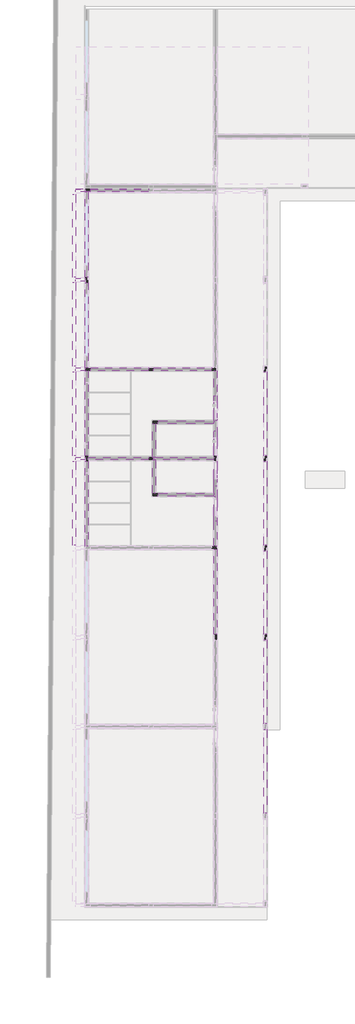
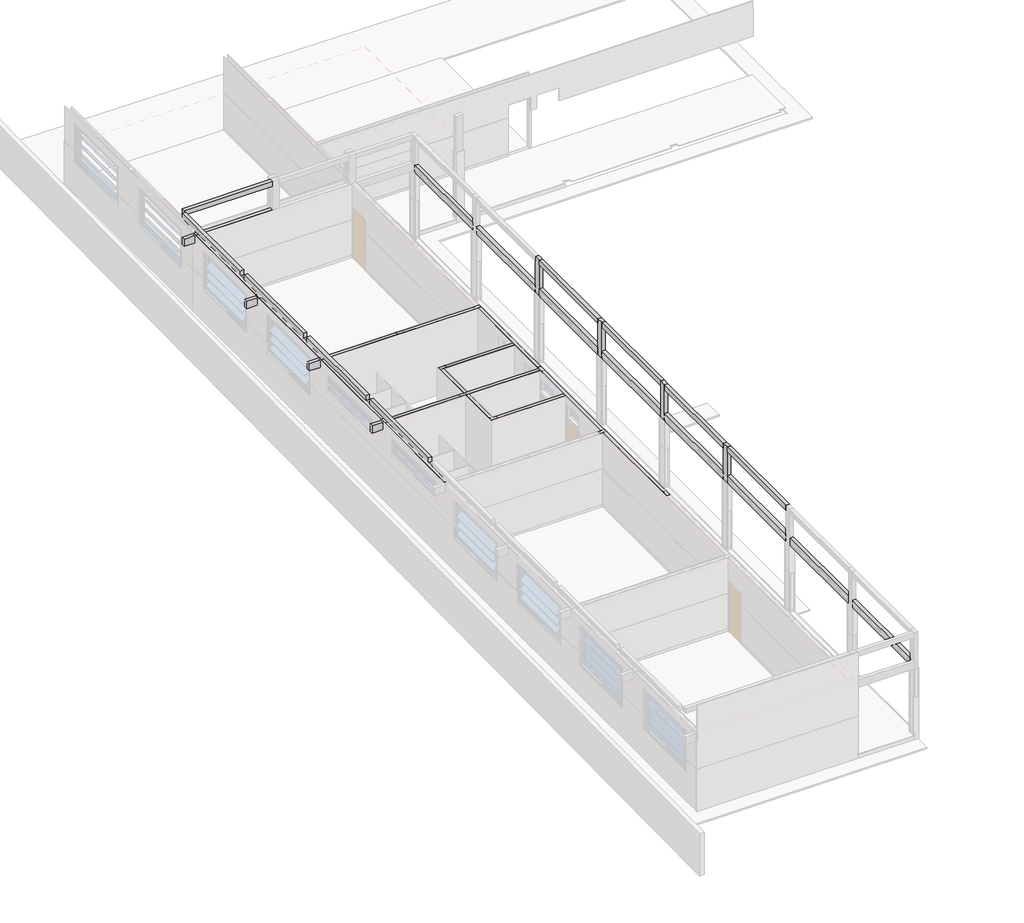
# One storey, part 9 of 11: 57 beams, 16 columns.
"""IFC4 building model written with IfcOpenShell, lengths in millimetres."""

from ifc_helpers import new_model, si_unit, frame, origin, place, context, project, spatial, polyline, outline, extrude, faceted_brep, transform, mapped, element, save
from components import beam_10x14x120_9fcbaa63

model = new_model("IFC4")

# Units and contexts
model_context = context("Model", 3, world=origin())
ifc_project = project(units=[si_unit("LENGTHUNIT", "METRE", prefix="MILLI")], contexts=[model_context])

# Site, building, storey
site = spatial("IfcSite", under=ifc_project)
building = spatial("IfcBuilding", under=site)
storey = spatial("IfcBuildingStorey", under=building, Name="NÍVEL 1", Elevation=43.4413576)

# Beams
placement = place(None, origin())
beam_10x14x120_shape = beam_10x14x120_9fcbaa63(model_context)
element("IfcBeam", 1, ObjectType="Verga-vedacao : 10x14x120", at=placement, inside=storey, context=model_context, shape_type="MappedRepresentation", body=[
    mapped(beam_10x14x120_shape, transform((9272.3574069, -7447.9280358, 2208.4413576), x_axis=(0.0, 1.0, 0.0), y_axis=(0.0, 0.0, 1.0), z_axis=(1.0, 0.0, 0.0))),
])
element("IfcBeam", 2, ObjectType="Verga-vedacao : 10x14x120", at=placement, inside=storey, context=model_context, shape_type="MappedRepresentation", body=[
    mapped(beam_10x14x120_shape, transform((9272.3574069, -5757.9280358, 2208.4413576), x_axis=(0.0, 1.0, 0.0), y_axis=(0.0, 0.0, 1.0), z_axis=(1.0, 0.0, 0.0))),
])
element("IfcBeam", 3, ObjectType="Verga-vedacao : 10x14x120", at=placement, inside=storey, context=model_context, shape_type="MappedRepresentation", body=[
    mapped(beam_10x14x120_shape, transform((9272.3574069, -4297.9280358, 2208.4413576), x_axis=(0.0, 1.0, 0.0), y_axis=(0.0, 0.0, 1.0), z_axis=(1.0, 0.0, 0.0))),
])
element("IfcBeam", 4, ObjectType="Verga-vedacao : 10x14x120", at=placement, inside=storey, context=model_context, shape_type="MappedRepresentation", body=[
    mapped(beam_10x14x120_shape, transform((9272.3574069, -2607.9280358, 2208.4413576), x_axis=(0.0, 1.0, 0.0), y_axis=(0.0, 0.0, 1.0), z_axis=(1.0, 0.0, 0.0))),
])
element("IfcBeam", 5, ObjectType="Viga Retangular de Concreto : VIGA BALDRAME 14X30-25MPA-CA50", at=placement, inside=storey, context=model_context, shape_type="SweptSolid", body=[
    extrude(outline(polyline([(5972.3574069, 7942.0719642), (5972.3574069, 7802.0719642), (3192.3574069, 7802.0719642), (3192.3574069, 7942.0719642), (5972.3574069, 7942.0719642)])), frame((0.0, 0.0, -256.5586424), z_axis=(0.0, 0.0, 1.0), x_axis=(1.0, 0.0, 0.0)), (0.0, 0.0, 1.0), 300.0),
])
element("IfcBeam", 6, ObjectType="Viga Retangular de Concreto : VIGA BALDRAME 14X30-25MPA-CA50", at=placement, inside=storey, context=model_context, shape_type="SweptSolid", body=[
    extrude(outline(polyline([(3072.3574069, 3702.0719642), (2932.3574069, 3702.0719642), (2932.3574069, 7802.0719642), (3072.3574069, 7802.0719642), (3072.3574069, 3702.0719642)])), frame((0.0, 0.0, -256.5586424), z_axis=(0.0, 0.0, 1.0), x_axis=(1.0, 0.0, 0.0)), (0.0, 0.0, 1.0), 300.0),
])
element("IfcBeam", 7, ObjectType="Viga Retangular de Concreto : VIGA BALDRAME 14X30-25MPA-CA50", at=placement, inside=storey, context=model_context, shape_type="SweptSolid", body=[
    extrude(outline(polyline([(3072.3574069, -657.9280358), (2932.3574069, -657.9280358), (2932.3574069, 3442.0719642), (3072.3574069, 3442.0719642), (3072.3574069, -657.9280358)])), frame((0.0, 0.0, -256.5586424), z_axis=(0.0, 0.0, 1.0), x_axis=(1.0, 0.0, 0.0)), (0.0, 0.0, 1.0), 300.0),
])
element("IfcBeam", 8, ObjectType="Viga Retangular de Concreto : VIGA BALDRAME 14X30-25MPA-CA50", at=placement, inside=storey, context=model_context, shape_type="SweptSolid", body=[
    extrude(outline(polyline([(3072.3574069, -4897.9280358), (2932.3574069, -4897.9280358), (2932.3574069, -797.9280358), (3072.3574069, -797.9280358), (3072.3574069, -4897.9280358)])), frame((0.0, 0.0, -256.5586424), z_axis=(0.0, 0.0, 1.0), x_axis=(1.0, 0.0, 0.0)), (0.0, 0.0, 1.0), 300.0),
])
element("IfcBeam", 9, ObjectType="Viga Retangular de Concreto : VIGA BALDRAME 14X30-25MPA-CA50", at=placement, inside=storey, context=model_context, shape_type="SweptSolid", body=[
    extrude(outline(polyline([(3072.3574069, -9257.9280358), (2932.3574069, -9257.9280358), (2932.3574069, -5157.9280358), (3072.3574069, -5157.9280358), (3072.3574069, -9257.9280358)])), frame((0.0, 0.0, -256.5586424), z_axis=(0.0, 0.0, 1.0), x_axis=(1.0, 0.0, 0.0)), (0.0, 0.0, 1.0), 300.0),
])
element("IfcBeam", 10, ObjectType="Viga Retangular de Concreto : VIGA BALDRAME 14X30-25MPA-CA50", at=placement, inside=storey, context=model_context, shape_type="SweptSolid", body=[
    extrude(outline(polyline([(11532.3574069, -9457.9280358), (11672.3574069, -9457.9280358), (11672.3574069, -13497.9280358), (11532.3574069, -13497.9280358), (11532.3574069, -9457.9280358)])), frame((0.0, 0.0, -276.5586424), z_axis=(0.0, 0.0, 1.0), x_axis=(1.0, 0.0, 0.0)), (0.0, 0.0, 1.0), 300.0),
])
element("IfcBeam", 11, ObjectType="Viga Retangular de Concreto : VIGA BALDRAME 14X30-25MPA-CA50", at=placement, inside=storey, context=model_context, shape_type="SweptSolid", body=[
    extrude(outline(polyline([(11532.3574069, -5157.9280358), (11672.3574069, -5157.9280358), (11672.3574069, -9197.9280358), (11532.3574069, -9197.9280358), (11532.3574069, -5157.9280358)])), frame((0.0, 0.0, -276.5586424), z_axis=(0.0, 0.0, 1.0), x_axis=(1.0, 0.0, 0.0)), (0.0, 0.0, 1.0), 300.0),
])
element("IfcBeam", 12, ObjectType="Viga Retangular de Concreto : VIGA BALDRAME 14X30-25MPA-CA50", at=placement, inside=storey, context=model_context, shape_type="SweptSolid", body=[
    extrude(outline(polyline([(11532.3574069, -857.9280358), (11672.3574069, -857.9280358), (11672.3574069, -4897.9280358), (11532.3574069, -4897.9280358), (11532.3574069, -857.9280358)])), frame((0.0, 0.0, -276.5586424), z_axis=(0.0, 0.0, 1.0), x_axis=(1.0, 0.0, 0.0)), (0.0, 0.0, 1.0), 300.0),
])
element("IfcBeam", 13, ObjectType="Viga Retangular de Concreto : VIGA BALDRAME 14X30-25MPA-CA50", at=placement, inside=storey, context=model_context, shape_type="SweptSolid", body=[
    extrude(outline(polyline([(5972.3574069, -657.9280358), (5972.3574069, -797.9280358), (3192.3574069, -797.9280358), (3192.3574069, -657.9280358), (5972.3574069, -657.9280358)])), frame((0.0, 0.0, -256.5586424), z_axis=(0.0, 0.0, 1.0), x_axis=(1.0, 0.0, 0.0)), (0.0, 0.0, 1.0), 300.0),
])
element("IfcBeam", 14, ObjectType="Viga Retangular de Concreto : VIGA BALDRAME 14X30-25MPA-CA50", at=placement, inside=storey, context=model_context, shape_type="SweptSolid", body=[
    extrude(outline(polyline([(9012.3574069, -657.9280358), (9012.3574069, -797.9280358), (6232.3574069, -797.9280358), (6232.3574069, -657.9280358), (9012.3574069, -657.9280358)])), frame((0.0, 0.0, -256.5586424), z_axis=(0.0, 0.0, 1.0), x_axis=(1.0, 0.0, 0.0)), (0.0, 0.0, 1.0), 300.0),
])
element("IfcBeam", 15, ObjectType="Viga Retangular de Concreto : VIGA BALDRAME 14X30-25MPA-CA50", at=placement, inside=storey, context=model_context, shape_type="Brep", body=[
    faceted_brep([(9132.3574069, -4897.9280358, 43.4413576), (9272.3574069, -4897.9280358, 43.4413576), (9272.3574069, -797.9280358, 43.4413576), (9132.3574069, -797.9280358, 43.4413576), (9132.3574069, -3207.9280358, 43.4413576), (9132.3574069, -3347.9280358, 43.4413576), (9132.3574069, -4897.9280358, -256.5586424), (9132.3574069, -797.9280358, -256.5586424), (9132.3574069, -3207.9280358, -256.5586424), (9132.3574069, -3347.9280358, -256.5586424), (9272.3574069, -4897.9280358, -256.5586424), (9272.3574069, -797.9280358, -256.5586424)], [[[0, 1, 2, 3, 4, 5]], [[6, 0, 5, 4, 3, 7, 8, 9]], [[10, 6, 9, 8, 7, 11]], [[1, 10, 11, 2]], [[2, 11, 7, 3]], [[1, 0, 6, 10]]]),
])
element("IfcBeam", 16, ObjectType="Viga Retangular de Concreto : VIGA BALDRAME 14X30-25MPA-CA50", at=placement, inside=storey, context=model_context, shape_type="Brep", body=[
    faceted_brep([(9132.3574069, -9257.9280358, 43.4413576), (9272.3574069, -9257.9280358, 43.4413576), (9272.3574069, -5157.9280358, 43.4413576), (9132.3574069, -5157.9280358, 43.4413576), (9132.3574069, -6707.9280358, 43.4413576), (9132.3574069, -6847.9280358, 43.4413576), (9132.3574069, -9257.9280358, -256.5586424), (9132.3574069, -5157.9280358, -256.5586424), (9132.3574069, -6707.9280358, -256.5586424), (9132.3574069, -6847.9280358, -256.5586424), (9272.3574069, -9257.9280358, -256.5586424), (9272.3574069, -5157.9280358, -256.5586424)], [[[0, 1, 2, 3, 4, 5]], [[6, 0, 5, 4, 3, 7, 8, 9]], [[10, 6, 9, 8, 7, 11]], [[1, 10, 11, 2]], [[1, 0, 6, 10]], [[2, 11, 7, 3]]]),
])
element("IfcBeam", 17, ObjectType="Viga Retangular de Concreto : VIGA BALDRAME 14X30-25MPA-CA50", at=placement, inside=storey, context=model_context, shape_type="SweptSolid", body=[
    extrude(outline(polyline([(9272.3574069, -13497.9280358), (9132.3574069, -13497.9280358), (9132.3574069, -9397.9280358), (9272.3574069, -9397.9280358), (9272.3574069, -13497.9280358)])), frame((0.0, 0.0, -256.5586424), z_axis=(0.0, 0.0, 1.0), x_axis=(1.0, 0.0, 0.0)), (0.0, 0.0, 1.0), 300.0),
])
element("IfcBeam", 18, ObjectType="Viga Retangular de Concreto : VIGA BALDRAME 14X30-25MPA-CA50", at=placement, inside=storey, context=model_context, shape_type="SweptSolid", body=[
    extrude(outline(polyline([(5972.3574069, -4957.9280358), (5972.3574069, -5097.9280358), (3072.3574069, -5097.9280358), (3072.3574069, -4957.9280358), (5972.3574069, -4957.9280358)])), frame((0.0, 0.0, -256.5586424), z_axis=(0.0, 0.0, 1.0), x_axis=(1.0, 0.0, 0.0)), (0.0, 0.0, 1.0), 300.0),
])
element("IfcBeam", 19, ObjectType="Viga Retangular de Concreto : VIGA BALDRAME 14X30-25MPA-CA50", at=placement, inside=storey, context=model_context, shape_type="Brep", body=[
    faceted_brep([(6232.3574069, -5097.9280358, 43.4413576), (6322.3574069, -5097.9280358, 43.4413576), (9132.3574069, -5097.9280358, 43.4413576), (9132.3574069, -4957.9280358, 43.4413576), (6322.3574069, -4957.9280358, 43.4413576), (6322.3574069, -4960.0953811, 43.4413576), (6232.3574069, -4960.0953811, 43.4413576), (6232.3574069, -5097.9280358, -256.5586424), (6322.3574069, -5097.9280358, -256.5586424), (9132.3574069, -5097.9280358, -256.5586424), (6232.3574069, -4960.0953811, -256.5586424), (6322.3574069, -4960.0953811, -256.5586424), (6322.3574069, -4957.9280358, -256.5586424), (9132.3574069, -4957.9280358, -256.5586424)], [[[0, 1, 2, 3, 4, 5, 6]], [[2, 1, 0, 7, 8, 9]], [[9, 8, 7, 10, 11, 12, 13]], [[3, 13, 12, 4]], [[7, 0, 6, 10]], [[3, 2, 9, 13]], [[11, 5, 4, 12]], [[5, 11, 10, 6]]]),
])
element("IfcBeam", 20, ObjectType="Viga Retangular de Concreto : VIGA BALDRAME 14X30-25MPA-CA50", at=placement, inside=storey, context=model_context, shape_type="SweptSolid", body=[
    extrude(outline(polyline([(6442.3574069, -3347.9280358), (6442.3574069, -3207.9280358), (9132.3574069, -3207.9280358), (9132.3574069, -3347.9280358), (6442.3574069, -3347.9280358)])), frame((0.0, 0.0, -256.5586424), z_axis=(0.0, 0.0, 1.0), x_axis=(1.0, 0.0, 0.0)), (0.0, 0.0, 1.0), 300.0),
])
element("IfcBeam", 21, ObjectType="Viga Retangular de Concreto : VIGA BALDRAME 14X30-25MPA-CA50", at=placement, inside=storey, context=model_context, shape_type="SweptSolid", body=[
    extrude(outline(polyline([(6442.3574069, -6847.9280358), (6442.3574069, -6707.9280358), (9132.3574069, -6707.9280358), (9132.3574069, -6847.9280358), (6442.3574069, -6847.9280358)])), frame((0.0, 0.0, -256.5586424), z_axis=(0.0, 0.0, 1.0), x_axis=(1.0, 0.0, 0.0)), (0.0, 0.0, 1.0), 300.0),
])
element("IfcBeam", 22, ObjectType="Viga Retangular de Concreto : VIGA BALDRAME 14X30-25MPA-CA50", at=placement, inside=storey, context=model_context, shape_type="Brep", body=[
    faceted_brep([(6322.3574069, -4960.0953811, 43.4413576), (6322.3574069, -4957.9280358, 43.4413576), (6322.3574069, -3347.9201223, 43.4413576), (6182.3574069, -3347.9201223, 43.4413576), (6182.3574069, -4957.9280358, 43.4413576), (6232.3574069, -4957.9280358, 43.4413576), (6232.3574069, -4960.0953811, 43.4413576), (6182.3574069, -3347.9201223, -256.5586424), (6182.3574069, -4957.9280358, -256.5586424), (6322.3574069, -3347.9201223, -256.5586424), (6322.3574069, -4957.9280358, -256.5586424), (6322.3574069, -4960.0953811, -256.5586424), (6232.3574069, -4960.0953811, -256.5586424), (6232.3574069, -4957.9280358, -256.5586424)], [[[0, 1, 2, 3, 4, 5, 6]], [[3, 7, 8, 4]], [[9, 10, 11, 12, 13, 8, 7]], [[2, 1, 0, 11, 10, 9]], [[11, 0, 6, 12]], [[5, 13, 12, 6]], [[13, 5, 4, 8]], [[2, 9, 7, 3]]]),
])
element("IfcBeam", 23, ObjectType="Viga Retangular de Concreto : VIGA BALDRAME 14X30-25MPA-CA50", at=placement, inside=storey, context=model_context, shape_type="Brep", body=[
    faceted_brep([(6322.3574069, -5097.8671346, 43.4413576), (6232.3574069, -5097.8671346, 43.4413576), (6182.3574069, -5097.8671346, 43.4413576), (6182.3574069, -6707.8671346, 43.4413576), (6322.3574069, -6707.8671346, 43.4413576), (6322.3574069, -5097.8671346, -256.5586424), (6322.3574069, -6707.8671346, -256.5586424), (6182.3574069, -5097.8671346, -256.5586424), (6232.3574069, -5097.8671346, -256.5586424), (6182.3574069, -6707.8671346, -256.5586424)], [[[0, 1, 2, 3, 4]], [[5, 0, 4, 6]], [[7, 8, 5, 6, 9]], [[2, 7, 9, 3]], [[2, 1, 0, 5, 8, 7]], [[3, 9, 6, 4]]]),
])
element("IfcBeam", 24, ObjectType="Viga Retangular de Concreto : VIGA ESTRUTURAL 14X20-25MPA-CA50", at=placement, inside=storey, context=model_context, shape_type="SweptSolid", body=[
    extrude(outline(polyline([(2472.3574069, 3702.0719642), (2332.3574069, 3702.0719642), (2332.3574069, 7682.0719642), (2472.3574069, 7682.0719642), (2472.3574069, 3702.0719642)])), frame((0.0, 0.0, 4143.4413576), z_axis=(0.0, 0.0, 1.0), x_axis=(1.0, 0.0, 0.0)), (0.0, 0.0, 1.0), 200.0),
])
element("IfcBeam", 25, ObjectType="Viga Retangular de Concreto : VIGA ESTRUTURAL 14X20-25MPA-CA50", at=placement, inside=storey, context=model_context, shape_type="SweptSolid", body=[
    extrude(outline(polyline([(2472.3574069, -597.9280358), (2332.3574069, -597.9280358), (2332.3574069, 3442.0719642), (2472.3574069, 3442.0719642), (2472.3574069, -597.9280358)])), frame((0.0, 0.0, 4143.4413576), z_axis=(0.0, 0.0, 1.0), x_axis=(1.0, 0.0, 0.0)), (0.0, 0.0, 1.0), 200.0),
])
element("IfcBeam", 26, ObjectType="Viga Retangular de Concreto : VIGA ESTRUTURAL 14X20-25MPA-CA50", at=placement, inside=storey, context=model_context, shape_type="SweptSolid", body=[
    extrude(outline(polyline([(2472.3574069, -4897.9280358), (2332.3574069, -4897.9280358), (2332.3574069, -857.9280358), (2472.3574069, -857.9280358), (2472.3574069, -4897.9280358)])), frame((0.0, 0.0, 4143.4413576), z_axis=(0.0, 0.0, 1.0), x_axis=(1.0, 0.0, 0.0)), (0.0, 0.0, 1.0), 200.0),
])
element("IfcBeam", 27, ObjectType="Viga Retangular de Concreto : VIGA ESTRUTURAL 14X20-25MPA-CA50", at=placement, inside=storey, context=model_context, shape_type="SweptSolid", body=[
    extrude(outline(polyline([(2472.3574069, -9197.9280358), (2332.3574069, -9197.9280358), (2332.3574069, -5157.9280358), (2472.3574069, -5157.9280358), (2472.3574069, -9197.9280358)])), frame((0.0, 0.0, 4143.4413576), z_axis=(0.0, 0.0, 1.0), x_axis=(1.0, 0.0, 0.0)), (0.0, 0.0, 1.0), 200.0),
])
element("IfcBeam", 28, ObjectType="Viga Retangular de Concreto : VIGA ESTRUTURAL 14X20-25MPA-CA50", at=placement, inside=storey, context=model_context, shape_type="SweptSolid", body=[
    extrude(outline(polyline([(11532.3574069, -13757.9280358), (11672.3574069, -13757.9280358), (11672.3574069, -17797.9280358), (11532.3574069, -17797.9280358), (11532.3574069, -13757.9280358)])), frame((0.0, 0.0, 4143.4413576), z_axis=(0.0, 0.0, 1.0), x_axis=(1.0, 0.0, 0.0)), (0.0, 0.0, 1.0), 200.0),
])
element("IfcBeam", 29, ObjectType="Viga Retangular de Concreto : VIGA ESTRUTURAL 14X20-25MPA-CA50", at=placement, inside=storey, context=model_context, shape_type="SweptSolid", body=[
    extrude(outline(polyline([(11532.3574069, -9457.9280358), (11672.3574069, -9457.9280358), (11672.3574069, -13497.9280358), (11532.3574069, -13497.9280358), (11532.3574069, -9457.9280358)])), frame((0.0, 0.0, 4143.4413576), z_axis=(0.0, 0.0, 1.0), x_axis=(1.0, 0.0, 0.0)), (0.0, 0.0, 1.0), 200.0),
])
element("IfcBeam", 30, ObjectType="Viga Retangular de Concreto : VIGA ESTRUTURAL 14X20-25MPA-CA50", at=placement, inside=storey, context=model_context, shape_type="SweptSolid", body=[
    extrude(outline(polyline([(11532.3574069, -5157.9280358), (11672.3574069, -5157.9280358), (11672.3574069, -9197.9280358), (11532.3574069, -9197.9280358), (11532.3574069, -5157.9280358)])), frame((0.0, 0.0, 4143.4413576), z_axis=(0.0, 0.0, 1.0), x_axis=(1.0, 0.0, 0.0)), (0.0, 0.0, 1.0), 200.0),
])
element("IfcBeam", 31, ObjectType="Viga Retangular de Concreto : VIGA ESTRUTURAL 14X20-25MPA-CA50", at=placement, inside=storey, context=model_context, shape_type="SweptSolid", body=[
    extrude(outline(polyline([(11532.3574069, -857.9280358), (11672.3574069, -857.9280358), (11672.3574069, -4897.9280358), (11532.3574069, -4897.9280358), (11532.3574069, -857.9280358)])), frame((0.0, 0.0, 4143.4413576), z_axis=(0.0, 0.0, 1.0), x_axis=(1.0, 0.0, 0.0)), (0.0, 0.0, 1.0), 200.0),
])
element("IfcBeam", 32, ObjectType="Viga Retangular de Concreto : VIGA ESTRUTURAL 14X20-25MPA-CA50", at=placement, inside=storey, context=model_context, shape_type="SweptSolid", body=[
    extrude(outline(polyline([(2472.3574069, 7802.0719642), (2472.3574069, 7942.0719642), (5972.3574069, 7942.0719642), (5972.3574069, 7802.0719642), (2472.3574069, 7802.0719642)])), frame((0.0, 0.0, 4143.4413576), z_axis=(0.0, 0.0, 1.0), x_axis=(1.0, 0.0, 0.0)), (0.0, 0.0, 1.0), 200.0),
])
element("IfcBeam", 33, ObjectType="Viga Retangular de Concreto : VIGA ESTRUTURAL 14X20-25MPA-CA50", at=placement, inside=storey, context=model_context, shape_type="SweptSolid", body=[
    extrude(outline(polyline([(2932.3574069, 3442.0719642), (3072.3574069, 3442.0719642), (3072.3574069, -657.9280358), (2932.3574069, -657.9280358), (2932.3574069, 3442.0719642)])), frame((0.0, 0.0, 1003.4413576), z_axis=(0.0, 0.0, 1.0), x_axis=(1.0, 0.0, 0.0)), (0.0, 0.0, 1.0), 200.0),
])
element("IfcBeam", 34, ObjectType="Viga Retangular de Concreto : VIGA ESTRUTURAL 14X20-25MPA-CA50", at=placement, inside=storey, context=model_context, shape_type="SweptSolid", body=[
    extrude(outline(polyline([(2932.3574069, 7802.0719642), (3072.3574069, 7802.0719642), (3072.3574069, 3702.0719642), (2932.3574069, 3702.0719642), (2932.3574069, 7802.0719642)])), frame((0.0, 0.0, 1003.4413576), z_axis=(0.0, 0.0, 1.0), x_axis=(1.0, 0.0, 0.0)), (0.0, 0.0, 1.0), 200.0),
])
element("IfcBeam", 35, ObjectType="Viga Retangular de Concreto : VIGA ESTRUTURAL 14X20-25MPA-CA50", at=placement, inside=storey, context=model_context, shape_type="SweptSolid", body=[
    extrude(outline(polyline([(2932.3574069, -797.9280358), (3072.3574069, -797.9280358), (3072.3574069, -4897.9280358), (2932.3574069, -4897.9280358), (2932.3574069, -797.9280358)])), frame((0.0, 0.0, 2003.4413576), z_axis=(0.0, 0.0, 1.0), x_axis=(1.0, 0.0, 0.0)), (0.0, 0.0, 1.0), 200.0),
])
element("IfcBeam", 36, ObjectType="Viga Retangular de Concreto : VIGA ESTRUTURAL 14X20-25MPA-CA50", at=placement, inside=storey, context=model_context, shape_type="SweptSolid", body=[
    extrude(outline(polyline([(2932.3574069, -5157.9280358), (3072.3574069, -5157.9280358), (3072.3574069, -9257.9280358), (2932.3574069, -9257.9280358), (2932.3574069, -5157.9280358)])), frame((0.0, 0.0, 2003.4413576), z_axis=(0.0, 0.0, 1.0), x_axis=(1.0, 0.0, 0.0)), (0.0, 0.0, 1.0), 200.0),
])
element("IfcBeam", 37, ObjectType="Viga Retangular de Concreto : VIGA ESTRUTURAL 14X30-25MPA-CA50", at=placement, inside=storey, context=model_context, shape_type="SweptSolid", body=[
    extrude(outline(polyline([(11532.3574069, 7682.0719642), (11672.3574069, 7682.0719642), (11672.3574069, 3702.0719642), (11532.3574069, 3702.0719642), (11532.3574069, 7682.0719642)])), frame((0.0, 0.0, 2843.4413576), z_axis=(0.0, 0.0, 1.0), x_axis=(1.0, 0.0, 0.0)), (0.0, 0.0, 1.0), 300.0),
    extrude(outline(polyline([(11672.3574069, -26337.9280358), (11532.3574069, -26337.9280358), (11532.3574069, -22357.9280358), (11672.3574069, -22357.9280358), (11672.3574069, -26337.9280358)])), frame((0.0, 0.0, 2843.4413576), z_axis=(0.0, 0.0, 1.0), x_axis=(1.0, 0.0, 0.0)), (0.0, 0.0, 1.0), 300.0),
    extrude(outline(polyline([(11532.3574069, 3442.0719642), (11672.3574069, 3442.0719642), (11672.3574069, -597.9280358), (11532.3574069, -597.9280358), (11532.3574069, 3442.0719642)])), frame((0.0, 0.0, 2843.4413576), z_axis=(0.0, 0.0, 1.0), x_axis=(1.0, 0.0, 0.0)), (0.0, 0.0, 1.0), 300.0),
    extrude(outline(polyline([(11672.3574069, -4897.9280358), (11532.3574069, -4897.9280358), (11532.3574069, -857.9280358), (11672.3574069, -857.9280358), (11672.3574069, -4897.9280358)])), frame((0.0, 0.0, 2843.4413576), z_axis=(0.0, 0.0, 1.0), x_axis=(1.0, 0.0, 0.0)), (0.0, 0.0, 1.0), 300.0),
    extrude(outline(polyline([(11532.3574069, -5157.9280358), (11672.3574069, -5157.9280358), (11672.3574069, -9197.9280358), (11532.3574069, -9197.9280358), (11532.3574069, -5157.9280358)])), frame((0.0, 0.0, 2843.4413576), z_axis=(0.0, 0.0, 1.0), x_axis=(1.0, 0.0, 0.0)), (0.0, 0.0, 1.0), 300.0),
    extrude(outline(polyline([(11672.3574069, -13497.9280358), (11532.3574069, -13497.9280358), (11532.3574069, -9457.9280358), (11672.3574069, -9457.9280358), (11672.3574069, -13497.9280358)])), frame((0.0, 0.0, 2843.4413576), z_axis=(0.0, 0.0, 1.0), x_axis=(1.0, 0.0, 0.0)), (0.0, 0.0, 1.0), 300.0),
    extrude(outline(polyline([(11532.3574069, -13757.9280358), (11672.3574069, -13757.9280358), (11672.3574069, -17797.9280358), (11532.3574069, -17797.9280358), (11532.3574069, -13757.9280358)])), frame((0.0, 0.0, 2843.4413576), z_axis=(0.0, 0.0, 1.0), x_axis=(1.0, 0.0, 0.0)), (0.0, 0.0, 1.0), 300.0),
    extrude(outline(polyline([(11672.3574069, -22097.9280358), (11532.3574069, -22097.9280358), (11532.3574069, -18057.9280358), (11672.3574069, -18057.9280358), (11672.3574069, -22097.9280358)])), frame((0.0, 0.0, 2843.4413576), z_axis=(0.0, 0.0, 1.0), x_axis=(1.0, 0.0, 0.0)), (0.0, 0.0, 1.0), 300.0),
])
element("IfcBeam", 38, ObjectType="Viga Retangular de Concreto : VIGA ESTRUTURAL 14X30-25MPA-CA50", at=placement, inside=storey, context=model_context, shape_type="SweptSolid", body=[
    extrude(outline(polyline([(9272.3574069, -13497.6116051), (9132.3574069, -13497.6116051), (9132.3574069, -9397.9280358), (9272.3574069, -9397.9280358), (9272.3574069, -13497.6116051)])), frame((0.0, 0.0, 2843.4413576), z_axis=(0.0, 0.0, 1.0), x_axis=(1.0, 0.0, 0.0)), (0.0, 0.0, 1.0), 300.0),
])
element("IfcBeam", 39, ObjectType="Viga Retangular de Concreto : VIGA ESTRUTURAL 14X30-25MPA-CA50", at=placement, inside=storey, context=model_context, shape_type="Brep", body=[
    faceted_brep([(9272.3574069, -5157.9280358, 3143.4413576), (9132.3574069, -5157.9280358, 3143.4413576), (9132.3574069, -6707.9280358, 3143.4413576), (9132.3574069, -6847.9280358, 3143.4413576), (9132.3574069, -9257.9280358, 3143.4413576), (9272.3574069, -9257.9280358, 3143.4413576), (9272.3574069, -5157.9280358, 2843.4413576), (9272.3574069, -9257.9280358, 2843.4413576), (9132.3574069, -5157.9280358, 2843.4413576), (9132.3574069, -9257.9280358, 2843.4413576), (9132.3574069, -6847.9280358, 2843.4413576), (9132.3574069, -6707.9280358, 2843.4413576)], [[[0, 1, 2, 3, 4, 5]], [[6, 0, 5, 7]], [[8, 6, 7, 9, 10, 11]], [[1, 8, 11, 10, 9, 4, 3, 2]], [[4, 9, 7, 5]], [[1, 0, 6, 8]]]),
])
element("IfcBeam", 40, ObjectType="Viga Retangular de Concreto : VIGA ESTRUTURAL 14X30-25MPA-CA50", at=placement, inside=storey, context=model_context, shape_type="Brep", body=[
    faceted_brep([(9272.3574069, -797.9280358, 3143.4413576), (9132.3574069, -797.9280358, 3143.4413576), (9132.3574069, -3207.9280358, 3143.4413576), (9132.3574069, -3347.9280358, 3143.4413576), (9132.3574069, -4897.9280358, 3143.4413576), (9272.3574069, -4897.9280358, 3143.4413576), (9272.3574069, -797.9280358, 2843.4413576), (9272.3574069, -4897.9280358, 2843.4413576), (9132.3574069, -797.9280358, 2843.4413576), (9132.3574069, -4897.9280358, 2843.4413576), (9132.3574069, -3347.9280358, 2843.4413576), (9132.3574069, -3207.9280358, 2843.4413576)], [[[0, 1, 2, 3, 4, 5]], [[6, 0, 5, 7]], [[8, 6, 7, 9, 10, 11]], [[1, 8, 11, 10, 9, 4, 3, 2]], [[1, 0, 6, 8]], [[4, 9, 7, 5]]]),
])
element("IfcBeam", 41, ObjectType="Viga Retangular de Concreto : VIGA ESTRUTURAL 14X30-25MPA-CA50", at=placement, inside=storey, context=model_context, shape_type="SweptSolid", body=[
    extrude(outline(polyline([(2932.3574069, -5157.9280358), (3072.3574069, -5157.9280358), (3072.3574069, -9257.9280358), (2932.3574069, -9257.9280358), (2932.3574069, -5157.9280358)])), frame((0.0, 0.0, 2843.4413576), z_axis=(0.0, 0.0, 1.0), x_axis=(1.0, 0.0, 0.0)), (0.0, 0.0, 1.0), 300.0),
])
element("IfcBeam", 42, ObjectType="Viga Retangular de Concreto : VIGA ESTRUTURAL 14X30-25MPA-CA50", at=placement, inside=storey, context=model_context, shape_type="SweptSolid", body=[
    extrude(outline(polyline([(2932.3574069, -797.9280358), (3072.3574069, -797.9280358), (3072.3574069, -4897.9280358), (2932.3574069, -4897.9280358), (2932.3574069, -797.9280358)])), frame((0.0, 0.0, 2843.4413576), z_axis=(0.0, 0.0, 1.0), x_axis=(1.0, 0.0, 0.0)), (0.0, 0.0, 1.0), 300.0),
])
element("IfcBeam", 43, ObjectType="Viga Retangular de Concreto : VIGA ESTRUTURAL 14X30-25MPA-CA50", at=placement, inside=storey, context=model_context, shape_type="SweptSolid", body=[
    extrude(outline(polyline([(2932.3574069, 3442.0719642), (3072.3574069, 3442.0719642), (3072.3574069, -657.9280358), (2932.3574069, -657.9280358), (2932.3574069, 3442.0719642)])), frame((0.0, 0.0, 2843.4413576), z_axis=(0.0, 0.0, 1.0), x_axis=(1.0, 0.0, 0.0)), (0.0, 0.0, 1.0), 300.0),
])
element("IfcBeam", 44, ObjectType="Viga Retangular de Concreto : VIGA ESTRUTURAL 14X30-25MPA-CA50", at=placement, inside=storey, context=model_context, shape_type="SweptSolid", body=[
    extrude(outline(polyline([(2932.3574069, 7802.0719642), (3072.3574069, 7802.0719642), (3072.3574069, 3702.0719642), (2932.3574069, 3702.0719642), (2932.3574069, 7802.0719642)])), frame((0.0, 0.0, 2843.4413576), z_axis=(0.0, 0.0, 1.0), x_axis=(1.0, 0.0, 0.0)), (0.0, 0.0, 1.0), 300.0),
])
element("IfcBeam", 45, ObjectType="Viga Retangular de Concreto : VIGA ESTRUTURAL 14X30-25MPA-CA50", at=placement, inside=storey, context=model_context, shape_type="SweptSolid", body=[
    extrude(outline(polyline([(5972.3574069, 7942.0719642), (5972.3574069, 7802.0719642), (3192.3574069, 7802.0719642), (3192.3574069, 7942.0719642), (5972.3574069, 7942.0719642)])), frame((0.0, 0.0, 2843.4413576), z_axis=(0.0, 0.0, 1.0), x_axis=(1.0, 0.0, 0.0)), (0.0, 0.0, 1.0), 300.0),
])
element("IfcBeam", 46, ObjectType="Viga Retangular de Concreto : VIGA ESTRUTURAL 14X30-25MPA-CA50", at=placement, inside=storey, context=model_context, shape_type="SweptSolid", body=[
    extrude(outline(polyline([(5972.3574069, -657.9280358), (5972.3574069, -797.9280358), (3192.3574069, -797.9280358), (3192.3574069, -657.9280358), (5972.3574069, -657.9280358)])), frame((0.0, 0.0, 2843.4413576), z_axis=(0.0, 0.0, 1.0), x_axis=(1.0, 0.0, 0.0)), (0.0, 0.0, 1.0), 300.0),
])
element("IfcBeam", 47, ObjectType="Viga Retangular de Concreto : VIGA ESTRUTURAL 14X30-25MPA-CA50", at=placement, inside=storey, context=model_context, shape_type="SweptSolid", body=[
    extrude(outline(polyline([(9012.3574069, -657.9280358), (9012.3574069, -797.9280358), (6232.3574069, -797.9280358), (6232.3574069, -657.9280358), (9012.3574069, -657.9280358)])), frame((0.0, 0.0, 2843.4413576), z_axis=(0.0, 0.0, 1.0), x_axis=(1.0, 0.0, 0.0)), (0.0, 0.0, 1.0), 300.0),
])
element("IfcBeam", 48, ObjectType="Viga Retangular de Concreto : VIGA ESTRUTURAL 14X30-25MPA-CA50", at=placement, inside=storey, context=model_context, shape_type="SweptSolid", body=[
    extrude(outline(polyline([(3072.3574069, -5097.9280358), (3072.3574069, -4957.9280358), (5972.3574069, -4957.9280358), (5972.3574069, -5097.9280358), (3072.3574069, -5097.9280358)])), frame((0.0, 0.0, 2843.4413576), z_axis=(0.0, 0.0, 1.0), x_axis=(1.0, 0.0, 0.0)), (0.0, 0.0, 1.0), 300.0),
])
element("IfcBeam", 49, ObjectType="Viga Retangular de Concreto : VIGA ESTRUTURAL 14X30-25MPA-CA50", at=placement, inside=storey, context=model_context, shape_type="Brep", body=[
    faceted_brep([(9132.3574069, -4957.9280358, 3143.4413576), (6322.3574069, -4957.9280358, 3143.4413576), (6232.3574069, -4957.9280358, 3143.4413576), (6232.3574069, -5097.2551227, 3143.4413576), (6322.3574069, -5097.2551227, 3143.4413576), (6322.3574069, -5097.9280358, 3143.4413576), (9132.3574069, -5097.9280358, 3143.4413576), (9132.3574069, -5097.9280358, 2843.4413576), (6322.3574069, -5097.9280358, 2843.4413576), (6232.3574069, -4957.9280358, 2843.4413576), (6322.3574069, -4957.9280358, 2843.4413576), (9132.3574069, -4957.9280358, 2843.4413576), (6322.3574069, -5097.2551227, 2843.4413576), (6232.3574069, -5097.2551227, 2843.4413576)], [[[0, 1, 2, 3, 4, 5, 6]], [[7, 6, 5, 8]], [[9, 10, 11, 7, 8, 12, 13]], [[2, 1, 0, 11, 10, 9]], [[0, 6, 7, 11]], [[2, 9, 13, 3]], [[4, 12, 8, 5]], [[12, 4, 3, 13]]]),
])
element("IfcBeam", 50, ObjectType="Viga Retangular de Concreto : VIGA ESTRUTURAL 14X30-25MPA-CA50", at=placement, inside=storey, context=model_context, shape_type="SweptSolid", body=[
    extrude(outline(polyline([(6442.3574069, -3347.9280358), (6442.3574069, -3207.9280358), (9132.3574069, -3207.9280358), (9132.3574069, -3347.9280358), (6442.3574069, -3347.9280358)])), frame((0.0, 0.0, 2843.4413576), z_axis=(0.0, 0.0, 1.0), x_axis=(1.0, 0.0, 0.0)), (0.0, 0.0, 1.0), 300.0),
])
element("IfcBeam", 51, ObjectType="Viga Retangular de Concreto : VIGA ESTRUTURAL 14X30-25MPA-CA50", at=placement, inside=storey, context=model_context, shape_type="SweptSolid", body=[
    extrude(outline(polyline([(6442.3574069, -6847.9280358), (6442.3574069, -6707.9280358), (9132.3574069, -6707.9280358), (9132.3574069, -6847.9280358), (6442.3574069, -6847.9280358)])), frame((0.0, 0.0, 2843.4413576), z_axis=(0.0, 0.0, 1.0), x_axis=(1.0, 0.0, 0.0)), (0.0, 0.0, 1.0), 300.0),
])
element("IfcBeam", 52, ObjectType="Viga Retangular de Concreto : VIGA ESTRUTURAL 14X30-25MPA-CA50", at=placement, inside=storey, context=model_context, shape_type="Brep", body=[
    faceted_brep([(6322.3574069, -6707.2551227, 3143.4413576), (6322.3574069, -5097.9280358, 3143.4413576), (6322.3574069, -5097.2551227, 3143.4413576), (6232.3574069, -5097.2551227, 3143.4413576), (6232.3574069, -5097.9280358, 3143.4413576), (6182.3574069, -5097.9280358, 3143.4413576), (6182.3574069, -6707.2551227, 3143.4413576), (6322.3574069, -6707.2551227, 2843.4413576), (6322.3574069, -5097.9280358, 2843.4413576), (6322.3574069, -5097.2551227, 2843.4413576), (6182.3574069, -6707.2551227, 2843.4413576), (6182.3574069, -5097.9280358, 2843.4413576), (6232.3574069, -5097.9280358, 2843.4413576), (6232.3574069, -5097.2551227, 2843.4413576)], [[[0, 1, 2, 3, 4, 5, 6]], [[2, 1, 0, 7, 8, 9]], [[9, 8, 7, 10, 11, 12, 13]], [[10, 6, 5, 11]], [[6, 10, 7, 0]], [[2, 9, 13, 3]], [[12, 4, 3, 13]], [[4, 12, 11, 5]]]),
])
element("IfcBeam", 53, ObjectType="Viga Retangular de Concreto : VIGA ESTRUTURAL 14X30-25MPA-CA50", at=placement, inside=storey, context=model_context, shape_type="Brep", body=[
    faceted_brep([(6182.3574069, -4957.7897468, 3143.4413576), (6232.3574069, -4957.7897468, 3143.4413576), (6322.3574069, -4957.7897468, 3143.4413576), (6322.3574069, -3347.7897468, 3143.4413576), (6182.3574069, -3347.7897468, 3143.4413576), (6182.3574069, -4957.7897468, 2843.4413576), (6182.3574069, -3347.7897468, 2843.4413576), (6322.3574069, -4957.7897468, 2843.4413576), (6232.3574069, -4957.7897468, 2843.4413576), (6322.3574069, -3347.7897468, 2843.4413576)], [[[0, 1, 2, 3, 4]], [[5, 0, 4, 6]], [[7, 8, 5, 6, 9]], [[2, 7, 9, 3]], [[2, 1, 0, 5, 8, 7]], [[3, 9, 6, 4]]]),
])
element("IfcBeam", 54, ObjectType="Viga Retangular de Concreto : VIGA ESTRUTURAL 14X30-25MPA-CA50", at=placement, inside=storey, context=model_context, shape_type="SweptSolid", body=[
    extrude(outline(polyline([(2932.3574069, -4957.9280358), (2932.3574069, -5097.9280358), (2472.3574069, -5097.9280358), (2472.3574069, -4957.9280358), (2932.3574069, -4957.9280358)])), frame((0.0, 0.0, 2843.4413576), z_axis=(0.0, 0.0, 1.0), x_axis=(1.0, 0.0, 0.0)), (0.0, 0.0, 1.0), 300.0),
])
element("IfcBeam", 55, ObjectType="Viga Retangular de Concreto : VIGA ESTRUTURAL 14X30-25MPA-CA50", at=placement, inside=storey, context=model_context, shape_type="SweptSolid", body=[
    extrude(outline(polyline([(2932.3574069, -657.9280358), (2932.3574069, -797.9280358), (2472.3574069, -797.9280358), (2472.3574069, -657.9280358), (2932.3574069, -657.9280358)])), frame((0.0, 0.0, 2843.4413576), z_axis=(0.0, 0.0, 1.0), x_axis=(1.0, 0.0, 0.0)), (0.0, 0.0, 1.0), 300.0),
])
element("IfcBeam", 56, ObjectType="Viga Retangular de Concreto : VIGA ESTRUTURAL 14X30-25MPA-CA50", at=placement, inside=storey, context=model_context, shape_type="SweptSolid", body=[
    extrude(outline(polyline([(2932.3574069, 3642.0719642), (2932.3574069, 3502.0719642), (2472.3574069, 3502.0719642), (2472.3574069, 3642.0719642), (2932.3574069, 3642.0719642)])), frame((0.0, 0.0, 2843.4413576), z_axis=(0.0, 0.0, 1.0), x_axis=(1.0, 0.0, 0.0)), (0.0, 0.0, 1.0), 300.0),
])
element("IfcBeam", 57, ObjectType="Viga Retangular de Concreto : VIGA ESTRUTURAL 14X30-25MPA-CA50", at=placement, inside=storey, context=model_context, shape_type="SweptSolid", body=[
    extrude(outline(polyline([(2932.3574069, 7942.0719642), (2932.3574069, 7802.0719642), (2472.3574069, 7802.0719642), (2472.3574069, 7942.0719642), (2932.3574069, 7942.0719642)])), frame((0.0, 0.0, 2843.4413576), z_axis=(0.0, 0.0, 1.0), x_axis=(1.0, 0.0, 0.0)), (0.0, 0.0, 1.0), 300.0),
])

# Columns
element("IfcColumn", 58, ObjectType="Pilar Retangular de Concreto : PILAR ESTRUTURAL 14X26-25MPA-CA50", at=placement, inside=storey, context=model_context, shape_type="SweptSolid", body=[
    extrude(outline(polyline([(3192.3574069, 7942.0719642), (3192.3574069, 7802.0719642), (2932.3574069, 7802.0719642), (2932.3574069, 7942.0719642), (3192.3574069, 7942.0719642)])), frame((0.0, 0.0, -356.5586424), z_axis=(0.0, 0.0, 1.0), x_axis=(1.0, 0.0, 0.0)), (0.0, 0.0, 1.0), 3500.0),
])
element("IfcColumn", 59, ObjectType="Pilar Retangular de Concreto : PILAR ESTRUTURAL 14X26-25MPA-CA50", at=placement, inside=storey, context=model_context, shape_type="SweptSolid", body=[
    extrude(outline(polyline([(3192.3574069, -657.9280358), (3192.3574069, -797.9280358), (2932.3574069, -797.9280358), (2932.3574069, -657.9280358), (3192.3574069, -657.9280358)])), frame((0.0, 0.0, -356.5586424), z_axis=(0.0, 0.0, 1.0), x_axis=(1.0, 0.0, 0.0)), (0.0, 0.0, 1.0), 3500.0),
])
element("IfcColumn", 60, ObjectType="Pilar Retangular de Concreto : PILAR ESTRUTURAL 14X26-25MPA-CA50", at=placement, inside=storey, context=model_context, shape_type="SweptSolid", body=[
    extrude(outline(polyline([(9272.3574069, -657.9280358), (9272.3574069, -797.9280358), (9012.3574069, -797.9280358), (9012.3574069, -657.9280358), (9272.3574069, -657.9280358)])), frame((0.0, 0.0, -356.5586424), z_axis=(0.0, 0.0, 1.0), x_axis=(1.0, 0.0, 0.0)), (0.0, 0.0, 1.0), 3500.0),
])
element("IfcColumn", 61, ObjectType="Pilar Retangular de Concreto : PILAR ESTRUTURAL 14X26-25MPA-CA50", at=placement, inside=storey, context=model_context, shape_type="SweptSolid", body=[
    extrude(outline(polyline([(9272.3574069, -9257.9280358), (9272.3574069, -9397.9280358), (9012.3574069, -9397.9280358), (9012.3574069, -9257.9280358), (9272.3574069, -9257.9280358)])), frame((0.0, 0.0, -356.5586424), z_axis=(0.0, 0.0, 1.0), x_axis=(1.0, 0.0, 0.0)), (0.0, 0.0, 1.0), 3500.0),
])
element("IfcColumn", 62, ObjectType="Pilar Retangular de Concreto : PILAR ESTRUTURAL 14X26-25MPA-CA50", at=placement, inside=storey, context=model_context, shape_type="SweptSolid", body=[
    extrude(outline(polyline([(6232.3574069, -657.9280358), (6232.3574069, -797.9280358), (5972.3574069, -797.9280358), (5972.3574069, -657.9280358), (6232.3574069, -657.9280358)])), frame((0.0, 0.0, -356.5586424), z_axis=(0.0, 0.0, 1.0), x_axis=(1.0, 0.0, 0.0)), (0.0, 0.0, 1.0), 3500.0),
])
element("IfcColumn", 63, ObjectType="Pilar Retangular de Concreto : PILAR ESTRUTURAL 14X26-25MPA-CA50", at=placement, inside=storey, context=model_context, shape_type="SweptSolid", body=[
    extrude(outline(polyline([(2932.3574069, 3702.0719642), (3072.3574069, 3702.0719642), (3072.3574069, 3442.0719642), (2932.3574069, 3442.0719642), (2932.3574069, 3702.0719642)])), frame((0.0, 0.0, -356.5586424), z_axis=(0.0, 0.0, 1.0), x_axis=(1.0, 0.0, 0.0)), (0.0, 0.0, 1.0), 3500.0),
])
element("IfcColumn", 64, ObjectType="Pilar Retangular de Concreto : PILAR ESTRUTURAL 14X26-25MPA-CA50", at=placement, inside=storey, context=model_context, shape_type="SweptSolid", body=[
    extrude(outline(polyline([(2932.3574069, -4897.9280358), (3072.3574069, -4897.9280358), (3072.3574069, -5157.9280358), (2932.3574069, -5157.9280358), (2932.3574069, -4897.9280358)])), frame((0.0, 0.0, -356.5586424), z_axis=(0.0, 0.0, 1.0), x_axis=(1.0, 0.0, 0.0)), (0.0, 0.0, 1.0), 3500.0),
])
element("IfcColumn", 65, ObjectType="Pilar Retangular de Concreto : PILAR ESTRUTURAL 14X26-25MPA-CA50", at=placement, inside=storey, context=model_context, shape_type="SweptSolid", body=[
    extrude(outline(polyline([(9132.3574069, -4897.9280358), (9272.3574069, -4897.9280358), (9272.3574069, -5157.9280358), (9132.3574069, -5157.9280358), (9132.3574069, -4897.9280358)])), frame((0.0, 0.0, -356.5586424), z_axis=(0.0, 0.0, 1.0), x_axis=(1.0, 0.0, 0.0)), (0.0, 0.0, 1.0), 3500.0),
])
element("IfcColumn", 66, ObjectType="Pilar Retangular de Concreto : PILAR ESTRUTURAL 14X26-25MPA-CA50", at=placement, inside=storey, context=model_context, shape_type="SweptSolid", body=[
    extrude(outline(polyline([(9132.3574069, -13497.9280358), (9272.3574069, -13497.9280358), (9272.3574069, -13757.9280358), (9132.3574069, -13757.9280358), (9132.3574069, -13497.9280358)])), frame((0.0, 0.0, -356.5586424), z_axis=(0.0, 0.0, 1.0), x_axis=(1.0, 0.0, 0.0)), (0.0, 0.0, 1.0), 3500.0),
])
element("IfcColumn", 67, ObjectType="Pilar Retangular de Concreto : PILAR ESTRUTURAL 14X26-25MPA-CA50", at=placement, inside=storey, context=model_context, shape_type="Brep", body=[
    faceted_brep([(11532.3574069, -4897.9280358, -356.5586424), (11672.3574069, -4897.9280358, -356.5586424), (11672.3574069, -5157.9280358, -356.5586424), (11532.3574069, -5157.9280358, -356.5586424), (11532.3574069, -4897.9280358, 4343.4413576), (11672.3574069, -4897.9280358, 4343.4413576), (11672.3574069, -4897.9280358, 4143.4413576), (11672.3574069, -4897.9280358, 3143.4413576), (11672.3574069, -4897.9280358, 2843.4413576), (11532.3574069, -4897.9280358, 2843.4413576), (11532.3574069, -4897.9280358, 3143.4413576), (11532.3574069, -4897.9280358, 4143.4413576), (11672.3574069, -5157.9280358, 4343.4413576), (11672.3574069, -5157.9280358, 4143.4413576), (11672.3574069, -5157.9280358, 3143.4413576), (11672.3574069, -5157.9280358, 2843.4413576), (11532.3574069, -5157.9280358, 4343.4413576), (11532.3574069, -5157.9280358, 4143.4413576), (11532.3574069, -5157.9280358, 3143.4413576), (11532.3574069, -5157.9280358, 2843.4413576)], [[[0, 1, 2, 3]], [[4, 5, 6, 7, 8, 1, 0, 9, 10, 11]], [[5, 12, 13, 14, 15, 2, 1, 8, 7, 6]], [[12, 16, 17, 18, 19, 3, 2, 15, 14, 13]], [[16, 4, 11, 10, 9, 0, 3, 19, 18, 17]], [[4, 16, 12, 5]]]),
])
element("IfcColumn", 68, ObjectType="Pilar Retangular de Concreto : PILAR ESTRUTURAL 14X26-25MPA-CA50", at=placement, inside=storey, context=model_context, shape_type="Brep", body=[
    faceted_brep([(11532.3574069, -13497.9280358, -356.5586424), (11672.3574069, -13497.9280358, -356.5586424), (11672.3574069, -13757.9280358, -356.5586424), (11532.3574069, -13757.9280358, -356.5586424), (11532.3574069, -13497.9280358, 4343.4413576), (11672.3574069, -13497.9280358, 4343.4413576), (11672.3574069, -13497.9280358, 4143.4413576), (11672.3574069, -13497.9280358, 3143.4413576), (11672.3574069, -13497.9280358, 2843.4413576), (11532.3574069, -13497.9280358, 2843.4413576), (11532.3574069, -13497.9280358, 3143.4413576), (11532.3574069, -13497.9280358, 4143.4413576), (11672.3574069, -13757.9280358, 4343.4413576), (11672.3574069, -13757.9280358, 4143.4413576), (11672.3574069, -13757.9280358, 3143.4413576), (11672.3574069, -13757.9280358, 2843.4413576), (11532.3574069, -13757.9280358, 4343.4413576), (11532.3574069, -13757.9280358, 4143.4413576), (11532.3574069, -13757.9280358, 3143.4413576), (11532.3574069, -13757.9280358, 2843.4413576)], [[[0, 1, 2, 3]], [[4, 5, 6, 7, 8, 1, 0, 9, 10, 11]], [[5, 12, 13, 14, 15, 2, 1, 8, 7, 6]], [[12, 16, 17, 18, 19, 3, 2, 15, 14, 13]], [[16, 4, 11, 10, 9, 0, 3, 19, 18, 17]], [[4, 16, 12, 5]]]),
])
element("IfcColumn", 69, ObjectType="Pilar Retangular de Concreto : PILAR ESTRUTURAL 14X26-25MPA-CA50", at=placement, inside=storey, context=model_context, shape_type="Brep", body=[
    faceted_brep([(11532.3574069, -9197.9280358, -356.5586424), (11672.3574069, -9197.9280358, -356.5586424), (11672.3574069, -9457.9280358, -356.5586424), (11532.3574069, -9457.9280358, -356.5586424), (11532.3574069, -9197.9280358, 4343.4413576), (11672.3574069, -9197.9280358, 4343.4413576), (11672.3574069, -9197.9280358, 4143.4413576), (11672.3574069, -9197.9280358, 3143.4413576), (11672.3574069, -9197.9280358, 2843.4413576), (11532.3574069, -9197.9280358, 2843.4413576), (11532.3574069, -9197.9280358, 3143.4413576), (11532.3574069, -9197.9280358, 4143.4413576), (11672.3574069, -9457.9280358, 4343.4413576), (11672.3574069, -9457.9280358, 4143.4413576), (11672.3574069, -9457.9280358, 3143.4413576), (11672.3574069, -9457.9280358, 2843.4413576), (11532.3574069, -9457.9280358, 4343.4413576), (11532.3574069, -9457.9280358, 4143.4413576), (11532.3574069, -9457.9280358, 3143.4413576), (11532.3574069, -9457.9280358, 2843.4413576)], [[[0, 1, 2, 3]], [[4, 5, 6, 7, 8, 1, 0, 9, 10, 11]], [[5, 12, 13, 14, 15, 2, 1, 8, 7, 6]], [[12, 16, 17, 18, 19, 3, 2, 15, 14, 13]], [[16, 4, 11, 10, 9, 0, 3, 19, 18, 17]], [[4, 16, 12, 5]]]),
])
element("IfcColumn", 70, ObjectType="Pilar Retangular de Concreto : PILAR ESTRUTURAL 14X26-25MPA-CA50", at=placement, inside=storey, context=model_context, shape_type="Brep", body=[
    faceted_brep([(11532.3574069, -597.9280358, -356.5586424), (11672.3574069, -597.9280358, -356.5586424), (11672.3574069, -857.9280358, -356.5586424), (11532.3574069, -857.9280358, -356.5586424), (11532.3574069, -597.9280358, 4343.4413576), (11672.3574069, -597.9280358, 4343.4413576), (11672.3574069, -597.9280358, 4143.4413576), (11672.3574069, -597.9280358, 3143.4413576), (11672.3574069, -597.9280358, 2843.4413576), (11532.3574069, -597.9280358, 2843.4413576), (11532.3574069, -597.9280358, 3143.4413576), (11532.3574069, -597.9280358, 4143.4413576), (11672.3574069, -857.9280358, 4343.4413576), (11672.3574069, -857.9280358, 4143.4413576), (11672.3574069, -857.9280358, 3143.4413576), (11672.3574069, -857.9280358, 2843.4413576), (11532.3574069, -857.9280358, 4343.4413576), (11532.3574069, -857.9280358, 4143.4413576), (11532.3574069, -857.9280358, 3143.4413576), (11532.3574069, -857.9280358, 2843.4413576)], [[[0, 1, 2, 3]], [[4, 5, 6, 7, 8, 1, 0, 9, 10, 11]], [[5, 12, 13, 14, 15, 2, 1, 8, 7, 6]], [[12, 16, 17, 18, 19, 3, 2, 15, 14, 13]], [[16, 4, 11, 10, 9, 0, 3, 19, 18, 17]], [[4, 16, 12, 5]]]),
])
element("IfcColumn", 71, ObjectType="Pilar Retangular de Concreto : PILAR ESTRUTURAL 14X26-25MPA-CA50", at=placement, inside=storey, context=model_context, shape_type="SweptSolid", body=[
    extrude(outline(polyline([(6232.3574069, -4957.9280358), (6232.3574069, -5097.9280358), (5972.3574069, -5097.9280358), (5972.3574069, -4957.9280358), (6232.3574069, -4957.9280358)])), frame((0.0, 0.0, -356.5586424), z_axis=(0.0, 0.0, 1.0), x_axis=(1.0, 0.0, 0.0)), (0.0, 0.0, 1.0), 3500.0),
])
element("IfcColumn", 72, ObjectType="Pilar Retangular de Concreto : PILAR ESTRUTURAL 14X26-25MPA-CA50", at=placement, inside=storey, context=model_context, shape_type="SweptSolid", body=[
    extrude(outline(polyline([(6442.3574069, -3207.9280358), (6442.3574069, -3347.9280358), (6182.3574069, -3347.9280358), (6182.3574069, -3207.9280358), (6442.3574069, -3207.9280358)])), frame((0.0, 0.0, -356.5586424), z_axis=(0.0, 0.0, 1.0), x_axis=(1.0, 0.0, 0.0)), (0.0, 0.0, 1.0), 3500.0),
])
element("IfcColumn", 73, ObjectType="Pilar Retangular de Concreto : PILAR ESTRUTURAL 14X26-25MPA-CA50", at=placement, inside=storey, context=model_context, shape_type="SweptSolid", body=[
    extrude(outline(polyline([(6442.3574069, -6707.9280358), (6442.3574069, -6847.9280358), (6182.3574069, -6847.9280358), (6182.3574069, -6707.9280358), (6442.3574069, -6707.9280358)])), frame((0.0, 0.0, -356.5586424), z_axis=(0.0, 0.0, 1.0), x_axis=(1.0, 0.0, 0.0)), (0.0, 0.0, 1.0), 3500.0),
])

save(model, "model.ifc")
